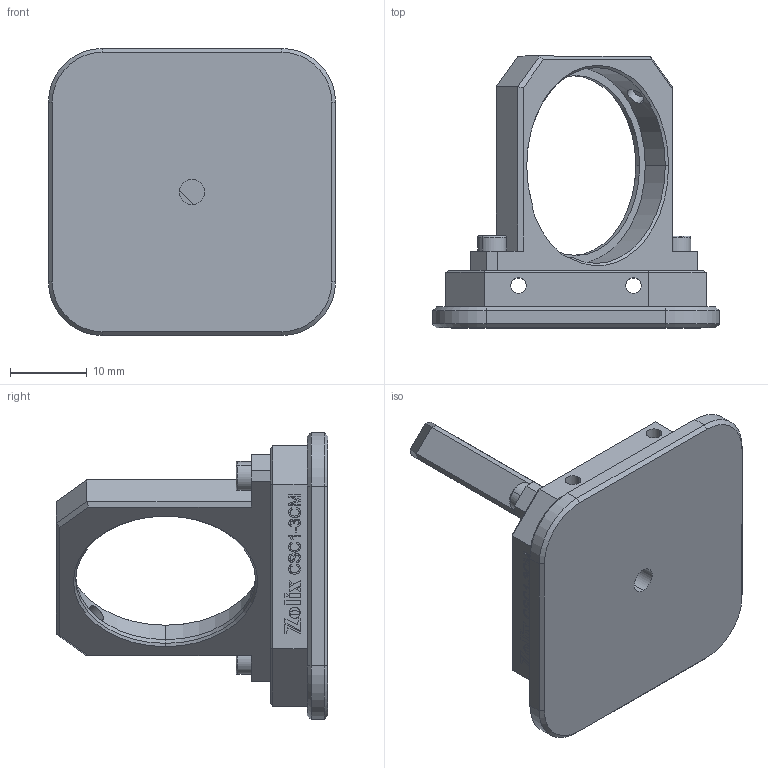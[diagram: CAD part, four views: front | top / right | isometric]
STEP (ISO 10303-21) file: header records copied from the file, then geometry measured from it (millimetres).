
FILE_DESCRIPTION (( 'STEP AP203' ), '1' );
FILE_NAME ('CSC1-3CM.STEP', '2024-03-28T03:19:30', ( '' ), ( '' ), 'SwSTEP 2.0', 'SolidWorks 2021', '' );
FILE_SCHEMA (( 'CONFIG_CONTROL_DESIGN' ));
Length unit declared in the file: millimetre
Products named in the file (1): CSC1-3CM
Bounding box: 37.5 x 35.5 x 37.5 mm (x, y, z)
Surface area: 5371.9 mm2 (no closed solid volume)
Topology: 0 solids, 10 shells, 181 faces, 884 edges, 693 vertices
Faces by surface type: plane 117, cylinder 28, cone 21, bspline 11, torus 4
Entity records: 10900 total; most frequent: CARTESIAN_POINT 4182, ORIENTED_EDGE 1225, DIRECTION 1221, EDGE_CURVE 878, VERTEX_POINT 693, VECTOR 645, LINE 645, AXIS2_PLACEMENT_3D 288
